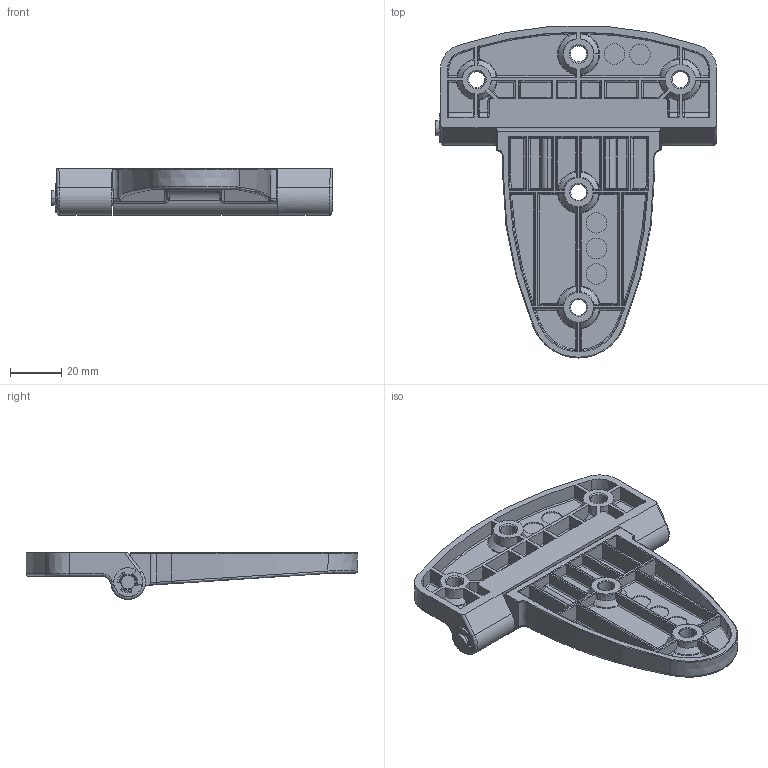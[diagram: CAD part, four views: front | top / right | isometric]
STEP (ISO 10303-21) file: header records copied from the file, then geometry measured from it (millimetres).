
FILE_DESCRIPTION (( 'STEP AP214' ), '1' );
FILE_NAME ('3.590.001.STEP', '2025-01-02T13:13:03', ( '' ), ( '' ), 'SwSTEP 2.0', 'SolidWorks 2021', '' );
FILE_SCHEMA (( 'AUTOMOTIVE_DESIGN' ));
Length unit declared in the file: millimetre
Products named in the file (5): 5.A171.005.001_00-00; 5.A171.005.004_00-00; 5.A171.005.003_00-00; DIN 6799_A2 - fi 5; 3.590.001
Assembly tree (4 placements, depth 2):
  3.590.001
    5.A171.005.001_00-00
    DIN 6799_A2 - fi 5
    5.A171.005.003_00-00
    5.A171.005.004_00-00
Bounding box: 110 x 129.73 x 18.3 mm (x, y, z)
Volume: 56718.4 mm3; surface area: 39081 mm2
Topology: 4 solids, 4 shells, 613 faces, 1468 edges, 895 vertices
Faces by surface type: cylinder 228, plane 168, cone 100, torus 64, bspline 49, sphere 4
Entity records: 21322 total; most frequent: CARTESIAN_POINT 7927, ORIENTED_EDGE 2932, DIRECTION 2530, EDGE_CURVE 1466, AXIS2_PLACEMENT_3D 956, VERTEX_POINT 895, EDGE_LOOP 663, VECTOR 618
